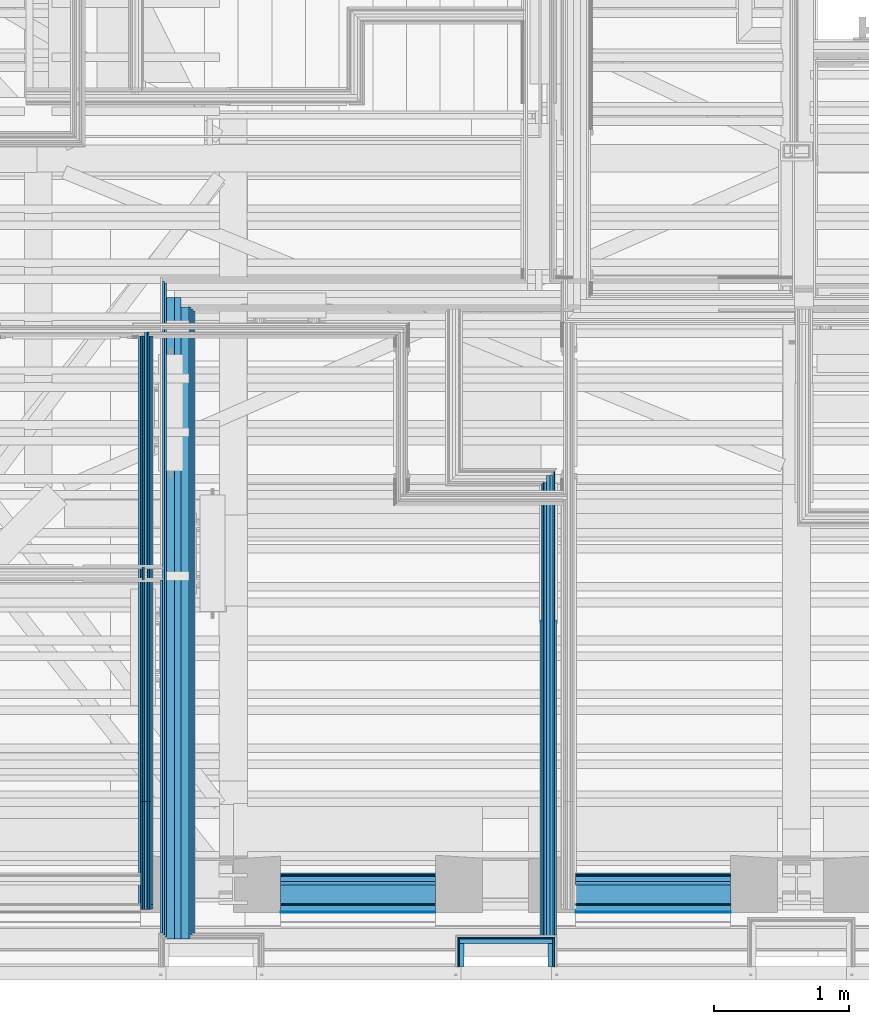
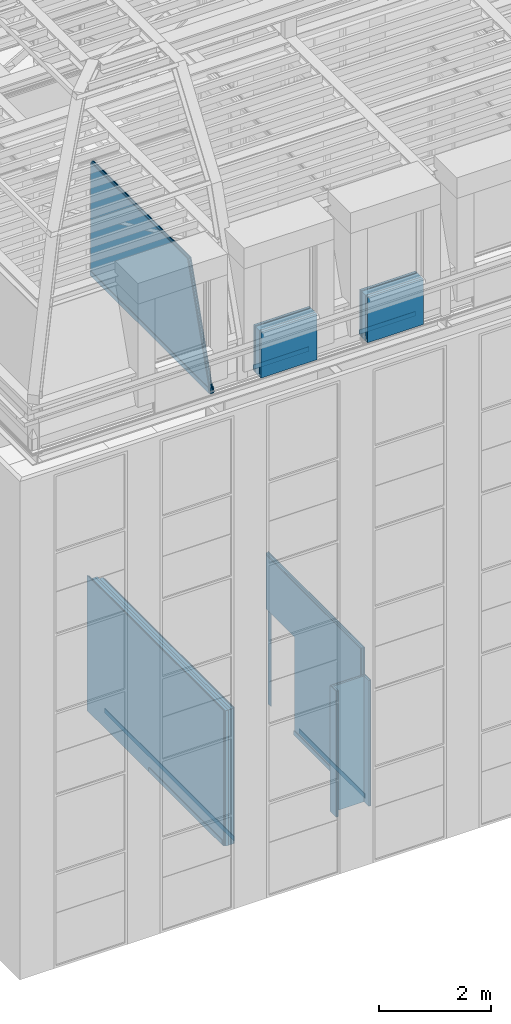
# One storey, part 28 of 183: 45 building element parts, 2 openings, 8 elements without a shape of their own.
"""IFC2X3 building model written with IfcOpenShell, lengths in metres."""

from ifc_helpers import new_model, entity, si_unit, converted_unit, derived_unit, money_unit, direction, frame, frame_2d, origin_with_axes, place, context, subcontext, project, spatial, polyline, rectangle, outline, extrude, clip, halfspace, material, type_object, element, aggregate, save


model = new_model("IFC2X3")

# Units and contexts
model_context = context("Model", 3, precision=1e-05, world=origin_with_axes(), true_north=direction((0.0, 1.0)))
body_context = subcontext(model_context, "Body", "Model", "MODEL_VIEW", scale=1.0)
ifc_project = project(units=[si_unit("LENGTHUNIT", "METRE"), si_unit("AREAUNIT", "SQUARE_METRE"), si_unit("VOLUMEUNIT", "CUBIC_METRE"), si_unit("ABSORBEDDOSEUNIT", "GRAY"), si_unit("AMOUNTOFSUBSTANCEUNIT", "MOLE"), si_unit("DOSEEQUIVALENTUNIT", "SIEVERT"), si_unit("ELECTRICCAPACITANCEUNIT", "FARAD"), si_unit("ELECTRICCHARGEUNIT", "COULOMB"), si_unit("ELECTRICCONDUCTANCEUNIT", "SIEMENS"), si_unit("ELECTRICCURRENTUNIT", "AMPERE"), si_unit("ELECTRICRESISTANCEUNIT", "OHM"), si_unit("ELECTRICVOLTAGEUNIT", "VOLT"), si_unit("ENERGYUNIT", "JOULE"), si_unit("FORCEUNIT", "NEWTON"), si_unit("FREQUENCYUNIT", "HERTZ"), si_unit("ILLUMINANCEUNIT", "LUX"), si_unit("INDUCTANCEUNIT", "HENRY"), si_unit("LUMINOUSFLUXUNIT", "LUMEN"), si_unit("LUMINOUSINTENSITYUNIT", "CANDELA"), si_unit("MAGNETICFLUXDENSITYUNIT", "TESLA"), si_unit("MAGNETICFLUXUNIT", "WEBER"), si_unit("MASSUNIT", "GRAM"), converted_unit("PLANEANGLEUNIT", "degree", entity("IfcReal", 0.0174532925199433), si_unit("PLANEANGLEUNIT", "RADIAN"), dimensions=[0, 0, 0, 0, 0, 0, 0]), si_unit("POWERUNIT", "WATT"), si_unit("PRESSUREUNIT", "PASCAL"), si_unit("RADIOACTIVITYUNIT", "BECQUEREL"), si_unit("SOLIDANGLEUNIT", "STERADIAN"), si_unit("THERMODYNAMICTEMPERATUREUNIT", "KELVIN"), si_unit("TIMEUNIT", "SECOND"), derived_unit("ACCELERATIONUNIT", [(si_unit("LENGTHUNIT", "METRE"), 1), (si_unit("TIMEUNIT", "SECOND"), -2)]), derived_unit("ANGULARVELOCITYUNIT", [(converted_unit("PLANEANGLEUNIT", "degree", entity("IfcReal", 0.0174532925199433), si_unit("PLANEANGLEUNIT", "RADIAN"), dimensions=[0, 0, 0, 0, 0, 0, 0]), 1), (si_unit("TIMEUNIT", "SECOND"), -1)]), derived_unit("CURVATUREUNIT", [(converted_unit("PLANEANGLEUNIT", "degree", entity("IfcReal", 0.0174532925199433), si_unit("PLANEANGLEUNIT", "RADIAN"), dimensions=[0, 0, 0, 0, 0, 0, 0]), 1), (si_unit("LENGTHUNIT", "METRE"), -1)]), derived_unit("DYNAMICVISCOSITYUNIT", [(si_unit("PRESSUREUNIT", "PASCAL"), 1), (si_unit("TIMEUNIT", "SECOND"), 1)]), derived_unit("HEATFLUXDENSITYUNIT", [(si_unit("POWERUNIT", "WATT"), 1), (si_unit("LENGTHUNIT", "METRE"), -2)]), derived_unit("HEATINGVALUEUNIT", [(si_unit("ENERGYUNIT", "JOULE"), 1), (si_unit("MASSUNIT", "GRAM"), -1)]), derived_unit("INTEGERCOUNTRATEUNIT", [(si_unit("TIMEUNIT", "SECOND"), -1)]), derived_unit("IONCONCENTRATIONUNIT", [(si_unit("MASSUNIT", "GRAM"), 1), (si_unit("VOLUMEUNIT", "CUBIC_METRE"), -1)]), derived_unit("ISOTHERMALMOISTURECAPACITYUNIT", [(si_unit("VOLUMEUNIT", "CUBIC_METRE"), 1), (si_unit("MASSUNIT", "GRAM"), -1)]), derived_unit("KINEMATICVISCOSITYUNIT", [(si_unit("AREAUNIT", "SQUARE_METRE"), 1), (si_unit("TIMEUNIT", "SECOND"), -1)]), derived_unit("LINEARFORCEUNIT", [(si_unit("FORCEUNIT", "NEWTON"), 1), (si_unit("LENGTHUNIT", "METRE"), -1)]), derived_unit("LINEARMOMENTUNIT", [(si_unit("FORCEUNIT", "NEWTON"), 1), (si_unit("LENGTHUNIT", "METRE"), -1)]), derived_unit("LINEARSTIFFNESSUNIT", [(si_unit("FORCEUNIT", "NEWTON"), 1), (si_unit("LENGTHUNIT", "METRE"), -1)]), derived_unit("LINEARVELOCITYUNIT", [(si_unit("LENGTHUNIT", "METRE"), 1), (si_unit("TIMEUNIT", "SECOND"), -1)]), derived_unit("LUMINOUSINTENSITYDISTRIBUTIONUNIT", [(si_unit("LUMINOUSINTENSITYUNIT", "CANDELA"), 1), (si_unit("LUMINOUSFLUXUNIT", "LUMEN"), -1)]), derived_unit("MASSDENSITYUNIT", [(si_unit("MASSUNIT", "GRAM"), 1), (si_unit("VOLUMEUNIT", "CUBIC_METRE"), -1)]), derived_unit("MASSFLOWRATEUNIT", [(si_unit("MASSUNIT", "GRAM"), 1), (si_unit("TIMEUNIT", "SECOND"), -1)]), derived_unit("MASSPERLENGTHUNIT", [(si_unit("MASSUNIT", "GRAM"), 1), (si_unit("LENGTHUNIT", "METRE"), -1)]), derived_unit("MODULUSOFELASTICITYUNIT", [(si_unit("FORCEUNIT", "NEWTON"), 1), (si_unit("AREAUNIT", "SQUARE_METRE"), -1)]), derived_unit("MODULUSOFLINEARSUBGRADEREACTIONUNIT", [(si_unit("FORCEUNIT", "NEWTON"), 1), (si_unit("LENGTHUNIT", "METRE"), -2)]), derived_unit("MODULUSOFROTATIONALSUBGRADEREACTIONUNIT", [(si_unit("FORCEUNIT", "NEWTON"), 1), (si_unit("LENGTHUNIT", "METRE"), 1)]), derived_unit("MODULUSOFSUBGRADEREACTIONUNIT", [(si_unit("FORCEUNIT", "NEWTON"), 1), (si_unit("VOLUMEUNIT", "CUBIC_METRE"), -1)]), derived_unit("MOISTUREDIFFUSIVITYUNIT", [(si_unit("VOLUMEUNIT", "CUBIC_METRE"), 1), (si_unit("TIMEUNIT", "SECOND"), -1)]), derived_unit("MOLECULARWEIGHTUNIT", [(si_unit("MASSUNIT", "GRAM"), 1), (si_unit("AMOUNTOFSUBSTANCEUNIT", "MOLE"), -1)]), derived_unit("PLANARFORCEUNIT", [(si_unit("FORCEUNIT", "NEWTON"), 1), (si_unit("LENGTHUNIT", "METRE"), -2)]), derived_unit("ROTATIONALFREQUENCYUNIT", [(si_unit("TIMEUNIT", "SECOND"), -1)]), derived_unit("ROTATIONALMASSUNIT", [(si_unit("MASSUNIT", "GRAM"), 1), (si_unit("LENGTHUNIT", "METRE"), 2)]), derived_unit("ROTATIONALSTIFFNESSUNIT", [(si_unit("FORCEUNIT", "NEWTON"), 1), (si_unit("LENGTHUNIT", "METRE"), 1), (converted_unit("PLANEANGLEUNIT", "degree", entity("IfcReal", 0.0174532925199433), si_unit("PLANEANGLEUNIT", "RADIAN"), dimensions=[0, 0, 0, 0, 0, 0, 0]), -1)]), derived_unit("SECTIONAREAINTEGRALUNIT", [(si_unit("LENGTHUNIT", "METRE"), 5)]), derived_unit("SECTIONMODULUSUNIT", [(si_unit("LENGTHUNIT", "METRE"), 3)]), derived_unit("SHEARMODULUSUNIT", [(si_unit("FORCEUNIT", "NEWTON"), 1), (si_unit("AREAUNIT", "SQUARE_METRE"), -1)]), derived_unit("SOUNDPOWERUNIT", [(si_unit("ENERGYUNIT", "JOULE"), 1), (si_unit("TIMEUNIT", "SECOND"), -1)]), derived_unit("SPECIFICHEATCAPACITYUNIT", [(si_unit("FORCEUNIT", "NEWTON"), 1), (si_unit("MASSUNIT", "GRAM"), -1), (si_unit("THERMODYNAMICTEMPERATUREUNIT", "KELVIN"), -1)]), derived_unit("TEMPERATUREGRADIENTUNIT", [(si_unit("THERMODYNAMICTEMPERATUREUNIT", "KELVIN"), 1), (si_unit("LENGTHUNIT", "METRE"), -1)]), derived_unit("THERMALADMITTANCEUNIT", [(si_unit("POWERUNIT", "WATT"), 1), (si_unit("AREAUNIT", "SQUARE_METRE"), -1), (si_unit("THERMODYNAMICTEMPERATUREUNIT", "KELVIN"), -1)]), derived_unit("THERMALCONDUCTANCEUNIT", [(si_unit("POWERUNIT", "WATT"), 1), (si_unit("LENGTHUNIT", "METRE"), -1), (si_unit("THERMODYNAMICTEMPERATUREUNIT", "KELVIN"), -1)]), derived_unit("THERMALEXPANSIONCOEFFICIENTUNIT", [(si_unit("THERMODYNAMICTEMPERATUREUNIT", "KELVIN"), -1)]), derived_unit("THERMALRESISTANCEUNIT", [(si_unit("AREAUNIT", "SQUARE_METRE"), 1), (si_unit("POWERUNIT", "WATT"), -1)]), derived_unit("THERMALTRANSMITTANCEUNIT", [(si_unit("POWERUNIT", "WATT"), 1), (si_unit("AREAUNIT", "SQUARE_METRE"), -1), (si_unit("THERMODYNAMICTEMPERATUREUNIT", "KELVIN"), -1)]), derived_unit("TORQUEUNIT", [(si_unit("FORCEUNIT", "NEWTON"), 1), (si_unit("LENGTHUNIT", "METRE"), 1)]), derived_unit("VAPORPERMEABILITYUNIT", [(si_unit("MASSUNIT", "GRAM"), 1), (si_unit("TIMEUNIT", "SECOND"), -1)]), derived_unit("VOLUMETRICFLOWRATEUNIT", [(si_unit("VOLUMEUNIT", "CUBIC_METRE"), 1), (si_unit("TIMEUNIT", "SECOND"), -1)]), derived_unit("WARPINGCONSTANTUNIT", [(si_unit("LENGTHUNIT", "METRE"), 6)]), derived_unit("WARPINGMOMENTUNIT", [(si_unit("FORCEUNIT", "NEWTON"), 1), (si_unit("LENGTHUNIT", "METRE"), 2)]), money_unit("GBP")], contexts=[model_context])

# Site, building, storey
site_placement = place(None, origin_with_axes())
site = spatial("IfcSite", under=ifc_project, at=site_placement, Name="Site", CompositionType="ELEMENT")
building_placement = place(site_placement, origin_with_axes())
building = spatial("IfcBuilding", under=site, at=building_placement, Name="Building01", CompositionType="ELEMENT")
storey_placement = place(building_placement, frame((0.0, 0.0, 5.15), z_axis=(0.0, 0.0, 1.0), x_axis=(1.0, 0.0, 0.0)))
storey = spatial("IfcBuildingStorey", under=building, at=storey_placement, Name="1F", CompositionType="ELEMENT", Elevation=5.15)

# Wall, building element parts
wall_type_1 = type_object("IfcWallType", Name="SHE_A-Walls_Type06d_ExternalWallInsulation_48mm", PredefinedType="NOTDEFINED")
wall_1_placement = place(storey_placement, frame((6.623, 0.1, 0.0), z_axis=(0.0, 0.0, 1.0), x_axis=(0.0, 1.0, 0.0)))
wall_1 = element("IfcWall", 1, at=wall_1_placement, inside=storey, type_object=wall_type_1, Name="6D", ObjectType="SHE_A-Walls_Type06d_ExternalWallInsulation_48mm")
ifc_material_1 = material(Name="A_BSUK_Insulation")
placement_1 = place(wall_1_placement, origin_with_axes())
building_element_part_1 = element("IfcBuildingElementPart", 2, at=placement_1, material=ifc_material_1, Name="1", context=body_context, shape_type="SweptSolid", body=[
    extrude(rectangle(XDim=0.17, YDim=0.036, at=frame_2d((0.085, 0.018), x_axis=(-1.0, 0.0))), origin_with_axes(), (0.0, 0.0, 1.0), 2.74),
])
ifc_material_2 = material(Name="A_BSUK_WallInternal_Finishes_Plasterboard")
building_element_part_2 = element("IfcBuildingElementPart", 3, at=placement_1, material=ifc_material_2, Name="2", context=body_context, shape_type="SweptSolid", body=[
    extrude(outline(polyline([(0.218, 0.048), (0.0, 0.048), (0.0, 0.035), (0.205, 0.035), (0.218, 0.048)])), origin_with_axes(), (0.0, 0.0, 1.0), 2.74),
])
aggregate(wall_1, [building_element_part_1, building_element_part_2])

wall_2_placement = place(storey_placement, frame((7.247, 0.27, 0.0), z_axis=(0.0, 0.0, 1.0), x_axis=(0.0, -1.0, 0.0)))
wall_2 = element("IfcWall", 4, at=wall_2_placement, inside=storey, type_object=wall_type_1, Name="6D", ObjectType="SHE_A-Walls_Type06d_ExternalWallInsulation_48mm")
placement_2 = place(wall_2_placement, origin_with_axes())
building_element_part_3 = element("IfcBuildingElementPart", 5, at=placement_2, material=ifc_material_1, Name="1", context=body_context, shape_type="SweptSolid", body=[
    extrude(rectangle(XDim=0.036, YDim=0.17, at=frame_2d((0.085, 0.018), x_axis=(0.0, -1.0))), origin_with_axes(), (0.0, 0.0, 1.0), 2.74),
])
building_element_part_4 = element("IfcBuildingElementPart", 6, at=placement_2, material=ifc_material_2, Name="2", context=body_context, shape_type="SweptSolid", body=[
    extrude(outline(polyline([(-0.048, 0.048), (-0.035, 0.035), (0.17, 0.035), (0.17, 0.048), (-0.048, 0.048)])), origin_with_axes(), (0.0, 0.0, 1.0), 2.74),
])
aggregate(wall_2, [building_element_part_3, building_element_part_4])

wall_type_2 = type_object("IfcWallType", Name="SHE_A-Walls_Type01c_Partywall_225mm_twin_tall", PredefinedType="NOTDEFINED")
wall_3_placement = place(storey_placement, frame((4.522, 0.306, 0.0), z_axis=(0.0, 0.0, 1.0), x_axis=(0.0, 1.0, 0.0)))
wall_3 = element("IfcWall", 7, at=wall_3_placement, inside=storey, type_object=wall_type_2, Name="1C", ObjectType="SHE_A-Walls_Type01c_Partywall_225mm_twin_tall")
ifc_material_3 = material(Name="A_BSUK_Walls_Timber")
placement_3 = place(wall_3_placement, origin_with_axes())
building_element_part_5 = element("IfcBuildingElementPart", 8, at=placement_3, material=ifc_material_3, Name="1", context=body_context, shape_type="SweptSolid", body=[
    extrude(rectangle(XDim=4.617, YDim=0.015, at=frame_2d((2.3505, -0.0955), x_axis=(-1.0, 0.0))), frame((0.0, 0.0, 0.015), z_axis=(0.0, 0.0, 1.0), x_axis=(1.0, 0.0, 0.0)), (0.0, 0.0, 1.0), 0.1),
])
building_element_part_6 = element("IfcBuildingElementPart", 9, at=placement_3, material=ifc_material_2, Name="2", context=body_context, shape_type="SweptSolid", body=[
    extrude(rectangle(XDim=4.647, YDim=0.015, at=frame_2d((2.3505, -0.0805), x_axis=(-1.0, 0.0))), origin_with_axes(), (0.0, 0.0, 1.0), 2.95),
])
building_element_part_7 = element("IfcBuildingElementPart", 10, at=placement_3, material=ifc_material_2, Name="3", context=body_context, shape_type="SweptSolid", body=[
    extrude(rectangle(XDim=4.689, YDim=0.015, at=frame_2d((2.3445, -0.0655), x_axis=(-1.0, 0.0))), origin_with_axes(), (0.0, 0.0, 1.0), 2.95),
])
ifc_material_4 = material(Name="Air Cavity")
building_element_part_8 = element("IfcBuildingElementPart", 11, at=placement_3, material=ifc_material_4, Name="4", context=body_context, shape_type="SweptSolid", body=[
    extrude(rectangle(XDim=4.689, YDim=0.058, at=frame_2d((2.3445, -0.029), x_axis=(-1.0, 0.0))), origin_with_axes(), (0.0, 0.0, 1.0), 2.95),
])
building_element_part_9 = element("IfcBuildingElementPart", 12, at=placement_3, material=ifc_material_1, Name="5", context=body_context, shape_type="SweptSolid", body=[
    extrude(rectangle(XDim=4.761, YDim=0.05, at=frame_2d((2.3805, 0.025), x_axis=(-1.0, 0.0))), origin_with_axes(), (0.0, 0.0, 1.0), 2.95),
])
building_element_part_10 = element("IfcBuildingElementPart", 13, at=placement_3, material=ifc_material_4, Name="6", context=body_context, shape_type="SweptSolid", body=[
    extrude(rectangle(XDim=4.761, YDim=0.057, at=frame_2d((2.3805, 0.0785), x_axis=(-1.0, 0.0))), origin_with_axes(), (0.0, 0.0, 1.0), 2.95),
])
building_element_part_11 = element("IfcBuildingElementPart", 14, at=placement_3, material=ifc_material_2, Name="7", context=body_context, shape_type="SweptSolid", body=[
    extrude(rectangle(XDim=4.857, YDim=0.015, at=frame_2d((2.4405, 0.1145), x_axis=(-1.0, 0.0))), origin_with_axes(), (0.0, 0.0, 1.0), 2.95),
])
building_element_part_12 = element("IfcBuildingElementPart", 15, at=placement_3, material=ifc_material_2, Name="8", context=body_context, shape_type="SweptSolid", body=[
    extrude(rectangle(XDim=4.857, YDim=0.015, at=frame_2d((2.4555, 0.1295), x_axis=(-1.0, 0.0))), origin_with_axes(), (0.0, 0.0, 1.0), 2.95),
])
building_element_part_13 = element("IfcBuildingElementPart", 16, at=placement_3, material=ifc_material_3, Name="9", context=body_context, shape_type="SweptSolid", body=[
    extrude(rectangle(XDim=2.622286, YDim=0.015, at=frame_2d((1.353143, 0.1445), x_axis=(-1.0, 0.0))), frame((0.0, 0.0, 0.015), z_axis=(0.0, 0.0, 1.0), x_axis=(1.0, 0.0, 0.0)), (0.0, 0.0, 1.0), 0.1),
])
aggregate(wall_3, [building_element_part_5, building_element_part_6, building_element_part_7, building_element_part_8, building_element_part_9, building_element_part_10, building_element_part_11, building_element_part_12, building_element_part_13])

# Wall, openings, building element parts
wall_type_3 = type_object("IfcWallType", Name="SHE_A-Walls_Type05a_Partition_95mm_tall", PredefinedType="NOTDEFINED")
wall_4_placement = place(storey_placement, frame((7.26, 3.745, 0.0), z_axis=(0.0, 0.0, 1.0), x_axis=(0.0, -1.0, 0.0)))
wall_4 = element("IfcWall", 17, at=wall_4_placement, inside=storey, type_object=wall_type_3, Name="5A", ObjectType="SHE_A-Walls_Type05a_Partition_95mm_tall")
opening_1_placement = place(wall_4_placement, frame((0.129, -0.075, -0.015), z_axis=(0.0, 0.0, 1.0), x_axis=(1.0, 0.0, 0.0)))
element("IfcOpeningElement", 18, at=opening_1_placement, cuts=wall_4, Name="Opening", ObjectType="Opening", context=body_context, shape_type="SweptSolid", body=[
    extrude(outline(polyline([(0.0, 2.142), (-0.9, 2.142), (-0.9, 0.015), (-0.464219, 0.015), (-0.464219, 0.0), (0.0, 0.0), (0.0, 2.142)])), frame((0.0, 0.0, 0.0), z_axis=(0.0, 1.0, 0.0), x_axis=(-1.0, 0.0, 0.0)), (0.0, 0.0, 1.0), 0.125),
    extrude(outline(polyline([(0.619781, 2.157), (-0.942, 2.157), (-0.942, 0.015), (-0.464219, 0.015), (-0.464219, 0.0), (0.619781, 0.0), (0.619781, 2.157)])), frame((0.0, 0.015, 0.0), z_axis=(0.0, 1.0, 0.0), x_axis=(-1.0, 0.0, 0.0)), (0.0, 0.0, 1.0), 0.012),
    extrude(outline(polyline([(0.619781, 2.157), (-0.942, 2.157), (-0.942, 0.015), (-0.464219, 0.015), (-0.464219, 0.0), (0.619781, 0.0), (0.619781, 2.157)])), frame((0.0, 0.027, 0.0), z_axis=(0.0, 1.0, 0.0), x_axis=(-1.0, 0.0, 0.0)), (0.0, 0.0, 1.0), 0.023),
    extrude(outline(polyline([(0.619781, 2.157), (-0.942, 2.157), (-0.942, 0.015), (-0.464219, 0.015), (-0.464219, 0.0), (0.619781, 0.0), (0.619781, 2.157)])), frame((0.0, 0.05, 0.0), z_axis=(0.0, 1.0, 0.0), x_axis=(-1.0, 0.0, 0.0)), (0.0, 0.0, 1.0), 0.025),
    extrude(outline(polyline([(0.619781, 2.157), (-0.942, 2.157), (-0.942, 0.015), (-0.464219, 0.015), (-0.464219, 0.0), (0.619781, 0.0), (0.619781, 2.157)])), frame((0.0, 0.075, 0.0), z_axis=(0.0, 1.0, 0.0), x_axis=(-1.0, 0.0, 0.0)), (0.0, 0.0, 1.0), 0.023),
    extrude(rectangle(XDim=0.9, YDim=2.142, at=frame_2d((-0.45, 1.071), x_axis=(-1.0, 0.0))), frame((0.0, 0.098, 0.0), z_axis=(0.0, 1.0, 0.0), x_axis=(-1.0, 0.0, 0.0)), (0.0, 0.0, 1.0), 0.012),
    extrude(outline(polyline([(0.042, 2.142), (0.042, 2.157), (-0.942, 2.157), (-0.942, 0.015), (-0.464219, 0.015), (-0.464219, 0.0), (0.619781, 0.0), (0.619781, 2.142), (0.042, 2.142)])), frame((0.0, 0.0, 0.0), z_axis=(0.0, 1.0, 0.0), x_axis=(-1.0, 0.0, 0.0)), (0.0, 0.0, 1.0), 0.098),
    extrude(outline(polyline([(0.042, 2.142), (0.042, 2.157), (-0.942, 2.157), (-0.942, 0.015), (-0.464219, 0.015), (-0.464219, 0.0), (0.619781, 0.0), (0.619781, 2.142), (0.042, 2.142)])), frame((0.0, 0.11, 0.0), z_axis=(0.0, 1.0, 0.0), x_axis=(-1.0, 0.0, 0.0)), (0.0, 0.0, 1.0), 0.015),
])
opening_2_placement = place(wall_4_placement, frame((0.087, 0.023, 0.0), z_axis=(0.0, 0.0, 1.0), x_axis=(1.0, 0.0, 0.0)))
element("IfcOpeningElement", 19, at=opening_2_placement, cuts=wall_4, Name="Opening", ObjectType="Recess", context=body_context, shape_type="SweptSolid", body=[
    extrude(rectangle(XDim=2.142, YDim=0.984, at=frame_2d((-0.492, 1.071), x_axis=(0.0, 1.0))), frame((0.0, 0.0, 0.0), z_axis=(0.0, 1.0, 0.0), x_axis=(-1.0, 0.0, 0.0)), (0.0, 0.0, 1.0), 0.012),
])
placement_4 = place(wall_4_placement, origin_with_axes())
building_element_part_14 = element("IfcBuildingElementPart", 20, at=placement_4, material=ifc_material_3, Name="1", context=body_context, shape_type="SweptSolid", body=[
    extrude(outline(polyline([(3.427, -0.06), (0.06, -0.06), (0.075, -0.075), (3.427, -0.075), (3.427, -0.06)])), frame((0.0, 0.0, 0.015), z_axis=(0.0, 0.0, 1.0), x_axis=(1.0, 0.0, 0.0)), (0.0, 0.0, 1.0), 0.1),
])
building_element_part_15 = element("IfcBuildingElementPart", 21, at=placement_4, material=ifc_material_2, Name="2", context=body_context, shape_type="SweptSolid", body=[
    extrude(outline(polyline([(3.427, -0.048), (0.048, -0.048), (0.06, -0.06), (3.427, -0.06), (3.427, -0.048)])), origin_with_axes(), (0.0, 0.0, 1.0), 3.32),
])
building_element_part_16 = element("IfcBuildingElementPart", 22, at=placement_4, material=ifc_material_4, Name="3", context=body_context, shape_type="SweptSolid", body=[
    extrude(outline(polyline([(3.427, -0.025), (0.025, -0.025), (0.048, -0.048), (3.427, -0.048), (3.427, -0.025)])), origin_with_axes(), (0.0, 0.0, 1.0), 3.32),
])
building_element_part_17 = element("IfcBuildingElementPart", 23, at=placement_4, material=ifc_material_1, Name="4", context=body_context, shape_type="SweptSolid", body=[
    extrude(rectangle(XDim=3.427, YDim=0.025, at=frame_2d((1.7135, -0.0125), x_axis=(-1.0, 0.0))), origin_with_axes(), (0.0, 0.0, 1.0), 3.32),
])
building_element_part_18 = element("IfcBuildingElementPart", 24, at=placement_4, material=ifc_material_4, Name="5", context=body_context, shape_type="SweptSolid", body=[
    extrude(rectangle(XDim=3.427, YDim=0.023, at=frame_2d((1.7135, 0.0115), x_axis=(-1.0, 0.0))), origin_with_axes(), (0.0, 0.0, 1.0), 3.32),
])
building_element_part_19 = element("IfcBuildingElementPart", 25, at=placement_4, material=ifc_material_2, Name="6", context=body_context, shape_type="SweptSolid", body=[
    extrude(outline(polyline([(3.427, 0.035), (-0.035, 0.035), (-0.023, 0.023), (3.427, 0.023), (3.427, 0.035)])), origin_with_axes(), (0.0, 0.0, 1.0), 3.32),
])
building_element_part_20 = element("IfcBuildingElementPart", 26, at=placement_4, material=ifc_material_3, Name="7", context=body_context, shape_type="SweptSolid", body=[
    extrude(outline(polyline([(3.412, 0.05), (-0.05, 0.05), (-0.035, 0.035), (3.412, 0.035), (3.412, 0.05)])), frame((0.0, 0.0, 0.015), z_axis=(0.0, 0.0, 1.0), x_axis=(1.0, 0.0, 0.0)), (0.0, 0.0, 1.0), 0.1),
])
aggregate(wall_4, [building_element_part_14, building_element_part_15, building_element_part_16, building_element_part_17, building_element_part_18, building_element_part_19, building_element_part_20])

# Wall, building element parts
wall_5_placement = place(storey_placement, frame((6.587, 0.27, 0.0), z_axis=(0.0, 0.0, 1.0), x_axis=(1.0, 0.0, 0.0)))
wall_5 = element("IfcWall", 27, at=wall_5_placement, inside=storey, type_object=wall_type_1, Name="6D", ObjectType="SHE_A-Walls_Type06d_ExternalWallInsulation_48mm")
placement_5 = place(wall_5_placement, origin_with_axes())
building_element_part_21 = element("IfcBuildingElementPart", 28, at=placement_5, material=ifc_material_1, Name="1", context=body_context, shape_type="SweptSolid", body=[
    extrude(rectangle(XDim=0.696, YDim=0.036, at=frame_2d((0.348, 0.018), x_axis=(-1.0, 0.0))), origin_with_axes(), (0.0, 0.0, 1.0), 2.74),
])
building_element_part_22 = element("IfcBuildingElementPart", 29, at=placement_5, material=ifc_material_2, Name="2", context=body_context, shape_type="SweptSolid", body=[
    extrude(outline(polyline([(0.708, 0.048), (-0.012, 0.048), (0.001, 0.035), (0.695, 0.035), (0.708, 0.048)])), origin_with_axes(), (0.0, 0.0, 1.0), 2.74),
])
aggregate(wall_5, [building_element_part_21, building_element_part_22])

wall_type_4 = type_object("IfcWallType", Name="SHE_A-Walls_Type05b_Partition_80mm", PredefinedType="NOTDEFINED")
wall_6_placement = place(storey_placement, frame((4.246976, 4.806939, 9.78), z_axis=(0.0, 0.0, 1.0), x_axis=(0.0, -1.0, 0.0)))
wall_6 = element("IfcWall", 30, at=wall_6_placement, inside=storey, type_object=wall_type_4, Name="5B", ObjectType="SHE_A-Walls_Type05b_Partition_80mm")
placement_6 = place(wall_6_placement, origin_with_axes())
building_element_part_23 = element("IfcBuildingElementPart", 31, at=placement_6, material=ifc_material_3, Name="1", context=body_context, shape_type="Clipping", body=[
    clip(extrude(rectangle(XDim=4.251209, YDim=0.015, at=frame_2d((2.152605, -0.0345), x_axis=(-1.0, 0.0))), frame((0.0, 0.0, 0.015), z_axis=(0.0, 0.0, 1.0), x_axis=(1.0, 0.0, 0.0)), (0.0, 0.0, 1.0), 0.1), halfspace(frame((3.874085, 0.0, 1.258766), z_axis=(-0.95105652, 0.0, -0.30901699), x_axis=(0.0, -1.0, 0.0)), True)),
])
building_element_part_24 = element("IfcBuildingElementPart", 32, at=placement_6, material=ifc_material_2, Name="2", context=body_context, shape_type="Clipping", body=[
    clip(extrude(rectangle(XDim=4.256083, YDim=0.015, at=frame_2d((2.155041, -0.0195), x_axis=(-1.0, 0.0))), origin_with_axes(), (0.0, 0.0, 1.0), 2.468), halfspace(frame((3.874085, 0.0, 1.258766), z_axis=(-0.95105652, 0.0, -0.30901699), x_axis=(0.0, -1.0, 0.0)), True)),
])
building_element_part_25 = element("IfcBuildingElementPart", 33, at=placement_6, material=ifc_material_4, Name="3", context=body_context, shape_type="Clipping", body=[
    clip(extrude(rectangle(XDim=4.256083, YDim=0.012, at=frame_2d((2.155041, -0.006), x_axis=(-1.0, 0.0))), origin_with_axes(), (0.0, 0.0, 1.0), 2.468), halfspace(frame((3.874085, 0.0, 1.258766), z_axis=(-0.95105652, 0.0, -0.30901699), x_axis=(0.0, -1.0, 0.0)), True)),
])
building_element_part_26 = element("IfcBuildingElementPart", 34, at=placement_6, material=ifc_material_1, Name="4", context=body_context, shape_type="Clipping", body=[
    clip(extrude(rectangle(XDim=4.283083, YDim=0.025, at=frame_2d((2.141541, 0.0125), x_axis=(-1.0, 0.0))), origin_with_axes(), (0.0, 0.0, 1.0), 2.468), halfspace(frame((3.874085, 0.0, 1.258766), z_axis=(-0.95105652, 0.0, -0.30901699), x_axis=(0.0, -1.0, 0.0)), True)),
])
building_element_part_27 = element("IfcBuildingElementPart", 35, at=placement_6, material=ifc_material_4, Name="5", context=body_context, shape_type="Clipping", body=[
    clip(extrude(rectangle(XDim=4.283083, YDim=0.013, at=frame_2d((2.141541, 0.0315), x_axis=(-1.0, 0.0))), origin_with_axes(), (0.0, 0.0, 1.0), 2.468), halfspace(frame((3.874085, 0.0, 1.258766), z_axis=(-0.95105652, 0.0, -0.30901699), x_axis=(0.0, -1.0, 0.0)), True)),
])
building_element_part_28 = element("IfcBuildingElementPart", 36, at=placement_6, material=ifc_material_2, Name="6", context=body_context, shape_type="Clipping", body=[
    clip(extrude(rectangle(XDim=4.256083, YDim=0.015, at=frame_2d((2.155041, 0.0455), x_axis=(-1.0, 0.0))), origin_with_axes(), (0.0, 0.0, 1.0), 2.468), halfspace(frame((3.874085, 0.0, 1.258766), z_axis=(-0.95105652, 0.0, -0.30901699), x_axis=(0.0, -1.0, 0.0)), True)),
])
building_element_part_29 = element("IfcBuildingElementPart", 37, at=placement_6, material=ifc_material_3, Name="7", context=body_context, shape_type="Clipping", body=[
    clip(extrude(rectangle(XDim=4.251209, YDim=0.015, at=frame_2d((2.152605, 0.0605), x_axis=(-1.0, 0.0))), frame((0.0, 0.0, 0.015), z_axis=(0.0, 0.0, 1.0), x_axis=(1.0, 0.0, 0.0)), (0.0, 0.0, 1.0), 0.1), halfspace(frame((3.874085, 0.0, 1.258766), z_axis=(-0.95105652, 0.0, -0.30901699), x_axis=(0.0, -1.0, 0.0)), True)),
])
aggregate(wall_6, [building_element_part_23, building_element_part_24, building_element_part_25, building_element_part_26, building_element_part_27, building_element_part_28, building_element_part_29])

wall_type_5 = type_object("IfcWallType", Name="SHE_A-Walls_Type06e_ExternalWallPenthouse_280mm", PredefinedType="NOTDEFINED")
wall_7_placement = place(storey_placement, frame((8.599976, 0.565, 9.78), z_axis=(0.0, 0.0, 1.0), x_axis=(-1.0, 0.0, 0.0)))
wall_7 = element("IfcWall", 38, at=wall_7_placement, inside=storey, type_object=wall_type_5, Name="6E", ObjectType="SHE_A-Walls_Type06e_ExternalWallPenthouse_280mm")
placement_7 = place(wall_7_placement, origin_with_axes())
building_element_part_30 = element("IfcBuildingElementPart", 39, at=placement_7, material=ifc_material_3, Name="1", context=body_context, shape_type="SweptSolid", body=[
    extrude(rectangle(XDim=1.149951, YDim=0.015, at=frame_2d((0.574976, -0.2225), x_axis=(-1.0, 0.0))), frame((0.0, 0.0, 0.015), z_axis=(0.0, 0.0, 1.0), x_axis=(1.0, 0.0, 0.0)), (0.0, 0.0, 1.0), 0.1),
])
building_element_part_31 = element("IfcBuildingElementPart", 40, at=placement_7, material=ifc_material_2, Name="2", context=body_context, shape_type="SweptSolid", body=[
    extrude(rectangle(XDim=1.149951, YDim=0.01, at=frame_2d((0.574976, -0.21), x_axis=(-1.0, 0.0))), origin_with_axes(), (0.0, 0.0, 1.0), 1.0),
])
building_element_part_32 = element("IfcBuildingElementPart", 41, at=placement_7, material=ifc_material_1, Name="3", context=body_context, shape_type="SweptSolid", body=[
    extrude(rectangle(XDim=1.149951, YDim=0.04, at=frame_2d((0.574976, -0.185), x_axis=(-1.0, 0.0))), origin_with_axes(), (0.0, 0.0, 1.0), 1.0),
])
building_element_part_33 = element("IfcBuildingElementPart", 42, at=placement_7, material=ifc_material_4, Name="4", context=body_context, shape_type="SweptSolid", body=[
    extrude(rectangle(XDim=1.149951, YDim=0.025, at=frame_2d((0.574976, -0.1525), x_axis=(-1.0, 0.0))), origin_with_axes(), (0.0, 0.0, 1.0), 1.0),
])
building_element_part_34 = element("IfcBuildingElementPart", 43, at=placement_7, material=ifc_material_1, Name="5", context=body_context, shape_type="SweptSolid", body=[
    extrude(rectangle(XDim=1.149951, YDim=0.14, at=frame_2d((0.574976, -0.07), x_axis=(-1.0, 0.0))), origin_with_axes(), (0.0, 0.0, 1.0), 1.0),
])
building_element_part_35 = element("IfcBuildingElementPart", 44, at=placement_7, material=ifc_material_3, Name="6", context=body_context, shape_type="SweptSolid", body=[
    extrude(rectangle(XDim=1.14995, YDim=0.01, at=frame_2d((0.574976, 0.005), x_axis=(-1.0, 0.0))), origin_with_axes(), (0.0, 0.0, 1.0), 1.0),
])
building_element_part_36 = element("IfcBuildingElementPart", 45, at=placement_7, material=ifc_material_4, Name="7", context=body_context, shape_type="SweptSolid", body=[
    extrude(rectangle(XDim=1.14995, YDim=0.05, at=frame_2d((0.574976, 0.035), x_axis=(-1.0, 0.0))), origin_with_axes(), (0.0, 0.0, 1.0), 1.0),
])
ifc_material_5 = material(Name="A_BSUK_WallInternal_Finishes_Metal")
building_element_part_37 = element("IfcBuildingElementPart", 46, at=placement_7, material=ifc_material_5, Name="8", context=body_context, shape_type="SweptSolid", body=[
    extrude(rectangle(XDim=1.14995, YDim=0.005, at=frame_2d((0.574976, 0.0625), x_axis=(-1.0, 0.0))), origin_with_axes(), (0.0, 0.0, 1.0), 1.0),
])
aggregate(wall_7, [building_element_part_30, building_element_part_31, building_element_part_32, building_element_part_33, building_element_part_34, building_element_part_35, building_element_part_36, building_element_part_37])

wall_8_placement = place(storey_placement, frame((6.409976, 0.565, 9.78), z_axis=(0.0, 0.0, 1.0), x_axis=(-1.0, 0.0, 0.0)))
wall_8 = element("IfcWall", 47, at=wall_8_placement, inside=storey, type_object=wall_type_5, Name="6E", ObjectType="SHE_A-Walls_Type06e_ExternalWallPenthouse_280mm")
placement_8 = place(wall_8_placement, origin_with_axes())
building_element_part_38 = element("IfcBuildingElementPart", 48, at=placement_8, material=ifc_material_3, Name="1", context=body_context, shape_type="SweptSolid", body=[
    extrude(rectangle(XDim=1.149951, YDim=0.015, at=frame_2d((0.574976, -0.2225), x_axis=(-1.0, 0.0))), frame((0.0, 0.0, 0.015), z_axis=(0.0, 0.0, 1.0), x_axis=(1.0, 0.0, 0.0)), (0.0, 0.0, 1.0), 0.1),
])
building_element_part_39 = element("IfcBuildingElementPart", 49, at=placement_8, material=ifc_material_2, Name="2", context=body_context, shape_type="SweptSolid", body=[
    extrude(rectangle(XDim=1.149951, YDim=0.01, at=frame_2d((0.574976, -0.21), x_axis=(-1.0, 0.0))), origin_with_axes(), (0.0, 0.0, 1.0), 1.0),
])
building_element_part_40 = element("IfcBuildingElementPart", 50, at=placement_8, material=ifc_material_1, Name="3", context=body_context, shape_type="SweptSolid", body=[
    extrude(rectangle(XDim=1.149951, YDim=0.04, at=frame_2d((0.574976, -0.185), x_axis=(-1.0, 0.0))), origin_with_axes(), (0.0, 0.0, 1.0), 1.0),
])
building_element_part_41 = element("IfcBuildingElementPart", 51, at=placement_8, material=ifc_material_4, Name="4", context=body_context, shape_type="SweptSolid", body=[
    extrude(rectangle(XDim=1.149951, YDim=0.025, at=frame_2d((0.574976, -0.1525), x_axis=(-1.0, 0.0))), origin_with_axes(), (0.0, 0.0, 1.0), 1.0),
])
building_element_part_42 = element("IfcBuildingElementPart", 52, at=placement_8, material=ifc_material_1, Name="5", context=body_context, shape_type="SweptSolid", body=[
    extrude(rectangle(XDim=1.149951, YDim=0.14, at=frame_2d((0.574976, -0.07), x_axis=(-1.0, 0.0))), origin_with_axes(), (0.0, 0.0, 1.0), 1.0),
])
building_element_part_43 = element("IfcBuildingElementPart", 53, at=placement_8, material=ifc_material_3, Name="6", context=body_context, shape_type="SweptSolid", body=[
    extrude(rectangle(XDim=1.14995, YDim=0.01, at=frame_2d((0.574976, 0.005), x_axis=(-1.0, 0.0))), origin_with_axes(), (0.0, 0.0, 1.0), 1.0),
])
building_element_part_44 = element("IfcBuildingElementPart", 54, at=placement_8, material=ifc_material_4, Name="7", context=body_context, shape_type="SweptSolid", body=[
    extrude(rectangle(XDim=1.14995, YDim=0.05, at=frame_2d((0.574976, 0.035), x_axis=(-1.0, 0.0))), origin_with_axes(), (0.0, 0.0, 1.0), 1.0),
])
building_element_part_45 = element("IfcBuildingElementPart", 55, at=placement_8, material=ifc_material_5, Name="8", context=body_context, shape_type="SweptSolid", body=[
    extrude(rectangle(XDim=1.14995, YDim=0.005, at=frame_2d((0.574976, 0.0625), x_axis=(-1.0, 0.0))), origin_with_axes(), (0.0, 0.0, 1.0), 1.0),
])
aggregate(wall_8, [building_element_part_38, building_element_part_39, building_element_part_40, building_element_part_41, building_element_part_42, building_element_part_43, building_element_part_44, building_element_part_45])

save(model, "model.ifc")
